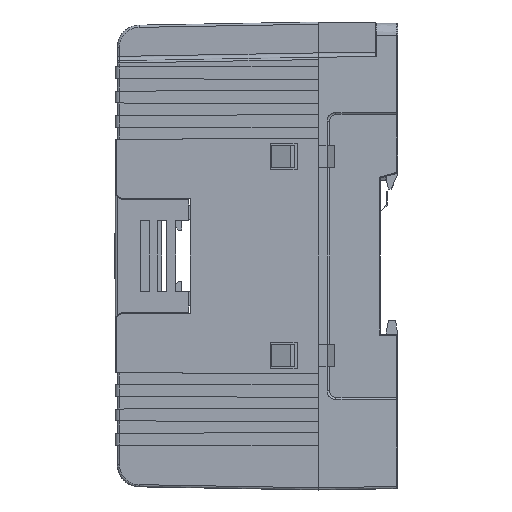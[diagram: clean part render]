
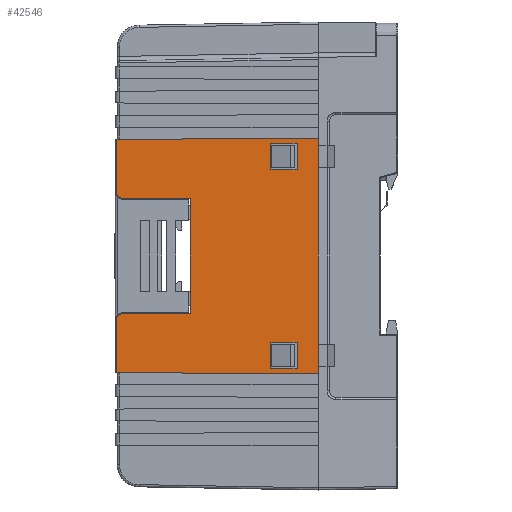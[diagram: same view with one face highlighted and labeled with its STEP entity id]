
A CAD part, left-side view. The second image highlights one B-rep face of the part: STEP entity #42546.
In plain terms, the highlighted planar face has unit normal (-1, 0.018, 0).
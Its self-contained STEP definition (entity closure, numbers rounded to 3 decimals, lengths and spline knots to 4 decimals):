
#23386=CARTESIAN_POINT('',(-2.2562,2.5119,
1.0387));
#23654=CARTESIAN_POINT('',(-2.2562,2.5119,
-1.0438));
#24593=DIRECTION('',(-0.017,-1.,0.));
#24594=VECTOR('',#24593,0.2363);
#24595=CARTESIAN_POINT('',(-2.2803,1.1338,
-1.0065));
#24596=LINE('',#24595,#24594);
#24597=DIRECTION('',(0.,0.,1.));
#24598=VECTOR('',#24597,0.2362);
#24599=CARTESIAN_POINT('',(-2.2844,0.8976,
-1.0065));
#24600=LINE('',#24599,#24598);
#24601=DIRECTION('',(0.017,1.,0.));
#24602=VECTOR('',#24601,0.2363);
#24603=CARTESIAN_POINT('',(-2.2844,0.8976,
-0.7703));
#24604=LINE('',#24603,#24602);
#24605=DIRECTION('',(0.,0.,-1.));
#24606=VECTOR('',#24605,0.2362);
#24607=CARTESIAN_POINT('',(-2.2803,1.1338,
-0.7703));
#24608=LINE('',#24607,#24606);
#24609=DIRECTION('',(-0.017,-1.,0.));
#24610=VECTOR('',#24609,0.2363);
#24611=CARTESIAN_POINT('',(-2.2803,1.1338,
0.7652));
#24612=LINE('',#24611,#24610);
#24613=DIRECTION('',(0.,0.,1.));
#24614=VECTOR('',#24613,0.2362);
#24615=CARTESIAN_POINT('',(-2.2844,0.8976,
0.7652));
#24616=LINE('',#24615,#24614);
#24617=DIRECTION('',(0.017,1.,0.));
#24618=VECTOR('',#24617,0.2363);
#24619=CARTESIAN_POINT('',(-2.2844,0.8976,
1.0014));
#24620=LINE('',#24619,#24618);
#24621=DIRECTION('',(0.,0.,-1.));
#24622=VECTOR('',#24621,0.2362);
#24623=CARTESIAN_POINT('',(-2.2803,1.1338,
1.0014));
#24624=LINE('',#24623,#24622);
#24721=DIRECTION('',(0.,0.,1.));
#24722=VECTOR('',#24721,1.0236);
#24723=CARTESIAN_POINT('',(-2.2678,1.8504,
-0.5144));
#24724=LINE('',#24723,#24722);
#24725=DIRECTION('',(-0.014,-0.806,-0.591));
#24726=VECTOR('',#24725,0.0545);
#24727=CARTESIAN_POINT('',(-2.2562,2.5119,
0.5469));
#24728=LINE('',#24727,#24726);
#24729=DIRECTION('',(0.,0.,-1.));
#24730=VECTOR('',#24729,0.4918);
#24731=CARTESIAN_POINT('',(-2.2562,2.5119,
1.0387));
#24732=LINE('',#24731,#24730);
#24733=DIRECTION('',(0.017,1.,-0.003));
#24734=VECTOR('',#24733,1.8036);
#24735=CARTESIAN_POINT('',(-2.2877,0.7086,
1.045));
#24736=LINE('',#24735,#24734);
#24737=DIRECTION('',(0.,0.,-1.));
#24738=VECTOR('',#24737,2.0951);
#24739=CARTESIAN_POINT('',(-2.2877,0.7086,
1.045));
#24740=LINE('',#24739,#24738);
#24741=DIRECTION('',(0.017,1.,0.003));
#24742=VECTOR('',#24741,1.8036);
#24743=CARTESIAN_POINT('',(-2.2877,0.7086,
-1.0501));
#24744=LINE('',#24743,#24742);
#24745=DIRECTION('',(0.,0.,-1.));
#24746=VECTOR('',#24745,0.4918);
#24747=CARTESIAN_POINT('',(-2.2562,2.5119,
-0.552));
#24748=LINE('',#24747,#24746);
#24749=DIRECTION('',(0.014,0.806,-0.591));
#24750=VECTOR('',#24749,0.0545);
#24751=CARTESIAN_POINT('',(-2.257,2.4679,
-0.5197));
#24752=LINE('',#24751,#24750);
#31862=DIRECTION('',(-0.017,-1.,-0.009));
#31863=VECTOR('',#31862,0.6177);
#31864=CARTESIAN_POINT('',(-2.257,2.4679,
0.5147));
#31865=LINE('',#31864,#31863);
#31930=CARTESIAN_POINT('',(-2.2562,2.5119,
0.5469));
#32004=DIRECTION('',(0.017,1.,-0.009));
#32005=VECTOR('',#32004,0.6177);
#32006=CARTESIAN_POINT('',(-2.2678,1.8504,
-0.5144));
#32007=LINE('',#32006,#32005);
#32048=CARTESIAN_POINT('',(-2.2562,2.5119,
-0.552));
#35122=CARTESIAN_POINT('',(-2.2803,1.1338,
-1.0065));
#35123=CARTESIAN_POINT('',(-2.2844,0.8976,
-1.0065));
#35124=VERTEX_POINT('',#35122);
#35125=VERTEX_POINT('',#35123);
#35126=CARTESIAN_POINT('',(-2.2844,0.8976,
-0.7703));
#35127=VERTEX_POINT('',#35126);
#35128=CARTESIAN_POINT('',(-2.2803,1.1338,
-0.7703));
#35129=VERTEX_POINT('',#35128);
#35130=CARTESIAN_POINT('',(-2.2803,1.1338,
0.7652));
#35131=CARTESIAN_POINT('',(-2.2844,0.8976,
0.7652));
#35132=VERTEX_POINT('',#35130);
#35133=VERTEX_POINT('',#35131);
#35134=CARTESIAN_POINT('',(-2.2844,0.8976,
1.0014));
#35135=VERTEX_POINT('',#35134);
#35136=CARTESIAN_POINT('',(-2.2803,1.1338,
1.0014));
#35137=VERTEX_POINT('',#35136);
#35254=VERTEX_POINT('',#31930);
#35257=VERTEX_POINT('',#32048);
#36834=CARTESIAN_POINT('',(-2.257,2.4679,
0.5147));
#36835=VERTEX_POINT('',#36834);
#36836=CARTESIAN_POINT('',(-2.257,2.4679,
-0.5197));
#36837=VERTEX_POINT('',#36836);
#36838=CARTESIAN_POINT('',(-2.2678,1.8504,
-0.5144));
#36839=CARTESIAN_POINT('',(-2.2678,1.8504,
0.5093));
#36840=VERTEX_POINT('',#36838);
#36841=VERTEX_POINT('',#36839);
#37096=CARTESIAN_POINT('',(-2.2877,0.7086,
-1.0501));
#37098=VERTEX_POINT('',#37096);
#37106=VERTEX_POINT('',#23654);
#37128=CARTESIAN_POINT('',(-2.2877,0.7086,
1.045));
#37130=VERTEX_POINT('',#37128);
#37138=VERTEX_POINT('',#23386);
#42510=CARTESIAN_POINT('',(-2.2877,0.7086,
1.7528));
#42511=DIRECTION('',(1.,-0.017,0.));
#42512=DIRECTION('',(0.,0.,1.));
#42513=AXIS2_PLACEMENT_3D('',#42510,#42511,#42512);
#42514=PLANE('',#42513);
#42516=ORIENTED_EDGE('',*,*,#42515,.T.);
#42518=ORIENTED_EDGE('',*,*,#42517,.F.);
#42520=ORIENTED_EDGE('',*,*,#42519,.F.);
#42522=ORIENTED_EDGE('',*,*,#42521,.F.);
#42523=ORIENTED_EDGE('',*,*,#40330,.F.);
#42524=ORIENTED_EDGE('',*,*,#37721,.T.);
#42525=ORIENTED_EDGE('',*,*,#40689,.T.);
#42527=ORIENTED_EDGE('',*,*,#42526,.F.);
#42529=ORIENTED_EDGE('',*,*,#42528,.F.);
#42531=ORIENTED_EDGE('',*,*,#42530,.F.);
#42532=EDGE_LOOP('',(#42516,#42518,#42520,#42522,#42523,#42524,#42525,#42527,
#42529,#42531));
#42533=FACE_OUTER_BOUND('',#42532,.F.);
#42534=ORIENTED_EDGE('',*,*,#41770,.T.);
#42535=ORIENTED_EDGE('',*,*,#41928,.T.);
#42536=ORIENTED_EDGE('',*,*,#41887,.T.);
#42537=ORIENTED_EDGE('',*,*,#42101,.T.);
#42538=EDGE_LOOP('',(#42534,#42535,#42536,#42537));
#42539=FACE_BOUND('',#42538,.F.);
#42540=ORIENTED_EDGE('',*,*,#42041,.T.);
#42541=ORIENTED_EDGE('',*,*,#42372,.T.);
#42542=ORIENTED_EDGE('',*,*,#42332,.T.);
#42543=ORIENTED_EDGE('',*,*,#42121,.T.);
#42544=EDGE_LOOP('',(#42540,#42541,#42542,#42543));
#42545=FACE_BOUND('',#42544,.F.);
#42546=ADVANCED_FACE('',(#42533,#42539,#42545),#42514,.F.);
#37721=EDGE_CURVE('',#37130,#37098,#24740,.T.);
#40330=EDGE_CURVE('',#37130,#37138,#24736,.T.);
#40689=EDGE_CURVE('',#37098,#37106,#24744,.T.);
#41770=EDGE_CURVE('',#35124,#35125,#24596,.T.);
#41887=EDGE_CURVE('',#35127,#35129,#24604,.T.);
#41928=EDGE_CURVE('',#35125,#35127,#24600,.T.);
#42041=EDGE_CURVE('',#35132,#35133,#24612,.T.);
#42101=EDGE_CURVE('',#35129,#35124,#24608,.T.);
#42121=EDGE_CURVE('',#35137,#35132,#24624,.T.);
#42332=EDGE_CURVE('',#35135,#35137,#24620,.T.);
#42372=EDGE_CURVE('',#35133,#35135,#24616,.T.);
#42515=EDGE_CURVE('',#36840,#36841,#24724,.T.);
#42517=EDGE_CURVE('',#36835,#36841,#31865,.T.);
#42519=EDGE_CURVE('',#35254,#36835,#24728,.T.);
#42521=EDGE_CURVE('',#37138,#35254,#24732,.T.);
#42526=EDGE_CURVE('',#35257,#37106,#24748,.T.);
#42528=EDGE_CURVE('',#36837,#35257,#24752,.T.);
#42530=EDGE_CURVE('',#36840,#36837,#32007,.T.);
